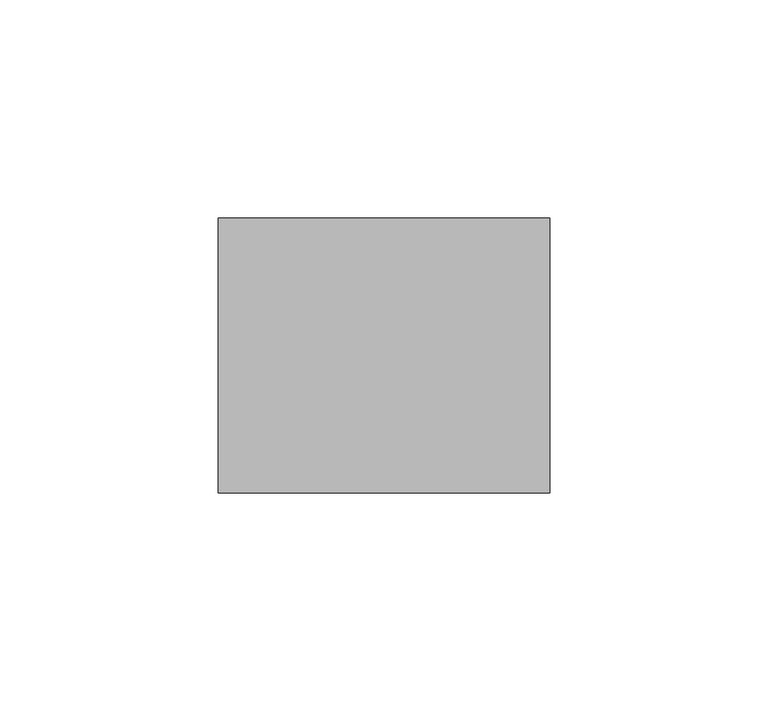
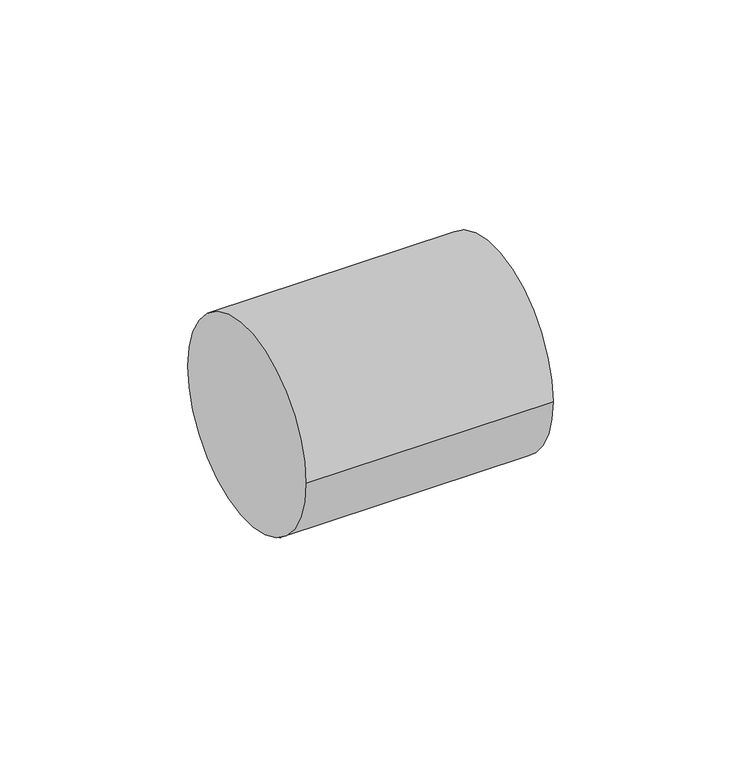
"""IFC4 building model written with IfcOpenShell, lengths in millimetres: pipe fitting geometry, 01051061 : Manchons M."""

from ifc_helpers import new_model, si_unit, point, frame, origin, origin_2d, place, context, project, spatial, circle_curve, trimmed, segment, composite_curve, outline, extrude, source, transform, mapped, element, save


def pipe_fitting_a29d9d9e(model_context):
    return source(origin(), model_context, "Body", "SweptSolid", [
        extrude(outline(composite_curve([segment(trimmed(circle_curve(origin_2d(), 31.5), [point((-31.5, 0.0))], [point((31.5, 0.0))], False, "CARTESIAN"), True, "CONTINUOUS"), segment(trimmed(circle_curve(origin_2d(), 31.5), [point((31.5, 0.0))], [point((-31.5, 0.0))], False, "CARTESIAN"), True, "CONTINUOUS")], self_intersect=False)), frame((-38.0, 0.0, 0.0), z_axis=(1.0, 0.0, 0.0), x_axis=(0.0, 1.0, 0.0)), (0.0, 0.0, 1.0), 76.0),
    ])


if __name__ == "__main__":
    model = new_model("IFC4")
    model_context = context("Model", 3, world=origin())
    ifc_project = project(units=[si_unit("LENGTHUNIT", "METRE", prefix="MILLI")], contexts=[model_context])
    site = spatial("IfcSite", under=ifc_project)
    building = spatial("IfcBuilding", under=site)
    placement = place(None, origin())
    pipe_fitting_shape = pipe_fitting_a29d9d9e(model_context)
    element("IfcPipeFitting", 1, ObjectType="01051061 : Manchons M", at=placement, inside=building, context=model_context, shape_type="MappedRepresentation", body=[
        mapped(pipe_fitting_shape, transform((0.0, 0.0, 0.0), x_axis=(1.0, 0.0, 0.0), y_axis=(0.0, 1.0, 0.0), z_axis=(0.0, 0.0, 1.0))),
    ])
    save(model, "model.ifc")
